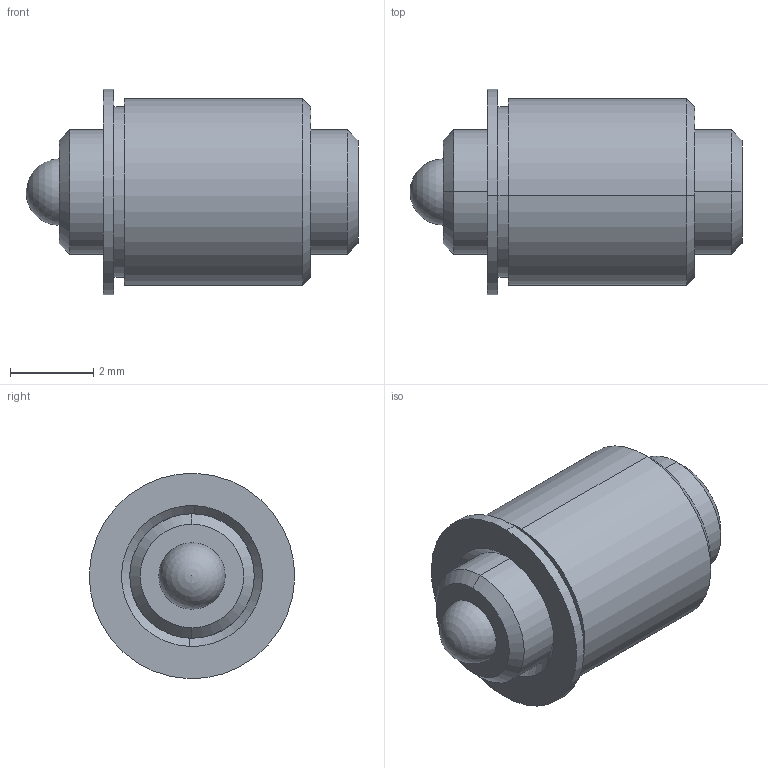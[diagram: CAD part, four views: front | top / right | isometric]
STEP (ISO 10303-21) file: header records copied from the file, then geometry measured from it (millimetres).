
FILE_DESCRIPTION (( 'STEP AP214' ), '1' );
FILE_NAME ('TSBM3-25-8_5.STEP', '2013-03-14T19:52:01', ( 'workpc' ), ( 'Microsoft' ), 'SwSTEP 2.0', 'SolidWorks 2013', '' );
FILE_SCHEMA (( 'AUTOMOTIVE_DESIGN' ));
Length unit declared in the file: inch
Products named in the file (1): TSBM3-25-8_5
Bounding box: 8 x 4.95 x 4.95 mm (x, y, z)
Surface area: 193.9 mm2 (no closed solid volume)
Topology: 0 solids, 3 shells, 32 faces, 75 edges, 49 vertices
Faces by surface type: plane 12, cone 10, cylinder 8, sphere 2
Entity records: 1325 total; most frequent: DIRECTION 170, CARTESIAN_POINT 149, ORIENTED_EDGE 128, EDGE_CURVE 70, AXIS2_PLACEMENT_3D 67, VERTEX_POINT 46, EDGE_LOOP 38, LINE 36
